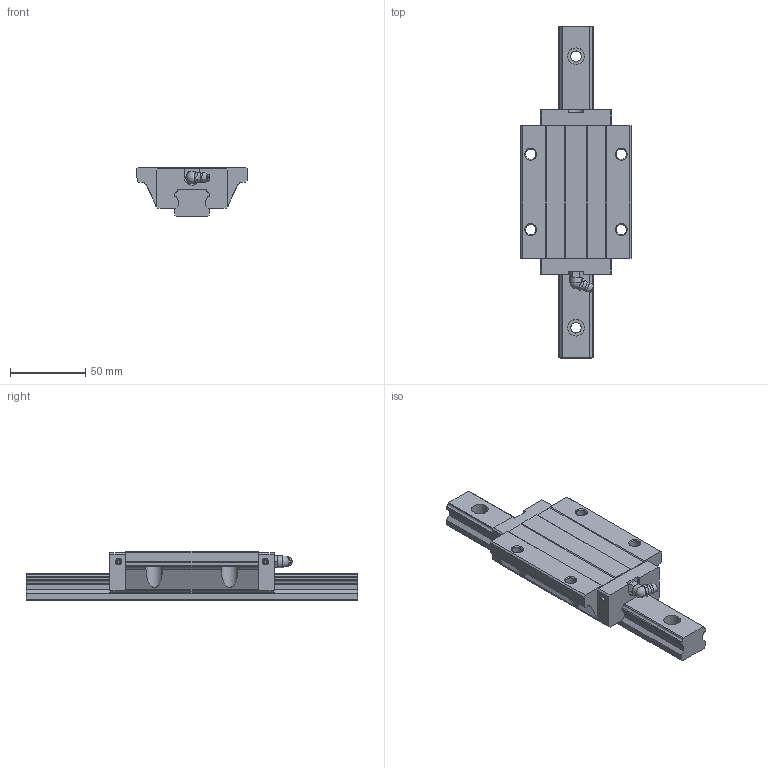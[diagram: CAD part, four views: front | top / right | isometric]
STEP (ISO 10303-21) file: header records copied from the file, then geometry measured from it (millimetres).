
FILE_DESCRIPTION(/* description */ (''),/* implementation_level */ '2;1');
FILE_NAME(/* name */ 'SME25-LEB',/* time_stamp */ '2008-10-06T09:41:29+08:00',/* author */ (''),/* organization */ (''),/* preprocessor_version */ 'ST-DEVELOPER v11',/* originating_system */ 'UGS - NX 5.0',/* authorisation */ '');
FILE_SCHEMA (('AUTOMOTIVE_DESIGN { 1 0 10303 214 1 1 1 1 }'));
Length unit declared in the file: millimetre
Products named in the file (1): SME25LEB_UG
Bounding box: 73 x 220 x 33 mm (x, y, z)
Volume: 219211.7 mm3; surface area: 47684.6 mm2
Topology: 3 solids, 3 shells, 197 faces, 521 edges, 344 vertices
Faces by surface type: plane 119, cylinder 59, cone 9, torus 7, sphere 2, bspline 1
Full cylindrical faces by diameter (mm): 2 x4, 3.3 x4, 6.5 x2, 6.8 x4, 7 x4, 8 x1, 11 x4
Entity records: 6235 total; most frequent: CARTESIAN_POINT 1174, DIRECTION 990, ORIENTED_EDGE 946, EDGE_CURVE 473, AXIS2_PLACEMENT_3D 340, VERTEX_POINT 332, LINE 310, VECTOR 310
